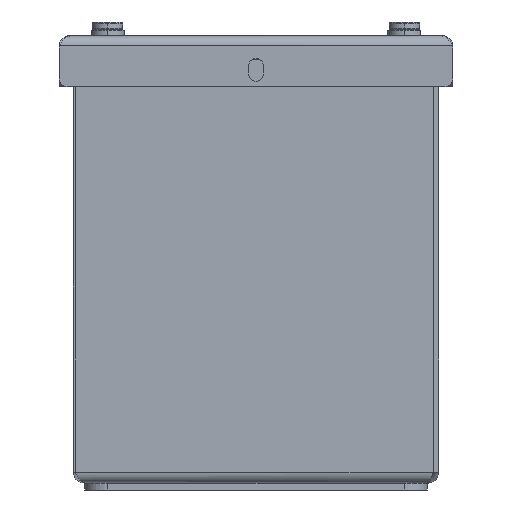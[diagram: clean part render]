
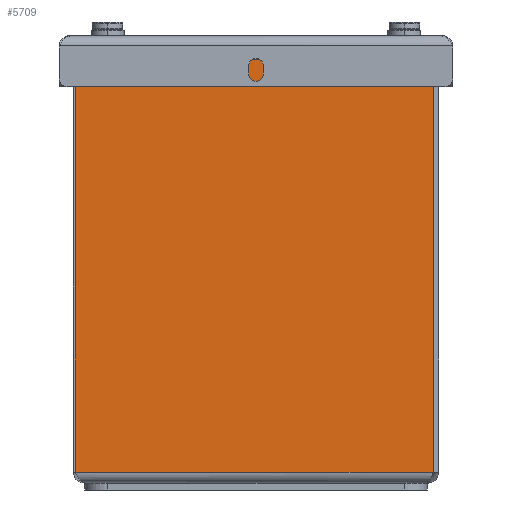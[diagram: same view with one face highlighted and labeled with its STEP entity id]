
A CAD part, left-side view. The second image highlights one B-rep face of the part: STEP entity #5709.
In plain terms, the highlighted planar face has unit normal (-1, 0, 0).
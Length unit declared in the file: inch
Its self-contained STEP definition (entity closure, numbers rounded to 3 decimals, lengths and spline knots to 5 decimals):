
#267=DIRECTION('',(0.,-1.,0.));
#268=VECTOR('',#267,3.918);
#269=CARTESIAN_POINT('',(0.,3.978,0.12));
#270=LINE('',#269,#268);
#1697=DIRECTION('',(0.,-1.,0.));
#1698=VECTOR('',#1697,3.22175);
#1699=CARTESIAN_POINT('',(0.,3.978,4.638));
#1700=LINE('',#1699,#1698);
#1785=DIRECTION('',(0.,0.,1.));
#1786=VECTOR('',#1785,4.518);
#1787=CARTESIAN_POINT('',(0.,3.978,0.12));
#1788=LINE('',#1787,#1786);
#1792=DIRECTION('',(0.,0.,1.));
#1793=VECTOR('',#1792,0.042);
#1794=CARTESIAN_POINT('',(0.,0.75625,4.638));
#1795=LINE('',#1794,#1793);
#1799=DIRECTION('',(0.,1.,0.));
#1800=VECTOR('',#1799,0.65125);
#1801=CARTESIAN_POINT('',(0.,0.105,4.68));
#1802=LINE('',#1801,#1800);
#1806=CARTESIAN_POINT('',(0.,0.105,4.635));
#1807=DIRECTION('',(-1.,0.,0.));
#1808=DIRECTION('',(0.,-1.,0.));
#1809=AXIS2_PLACEMENT_3D('',#1806,#1807,#1808);
#1856=DIRECTION('',(0.,0.,1.));
#1857=VECTOR('',#1856,4.515);
#1858=CARTESIAN_POINT('',(0.,0.06,0.12));
#1859=LINE('',#1858,#1857);
#3521=CARTESIAN_POINT('',(0.,0.75625,4.638));
#3522=CARTESIAN_POINT('',(0.,0.75625,4.68));
#3523=VERTEX_POINT('',#3521);
#3524=VERTEX_POINT('',#3522);
#3649=CARTESIAN_POINT('',(0.,3.978,0.12));
#3650=CARTESIAN_POINT('',(0.,3.978,4.638));
#3651=VERTEX_POINT('',#3649);
#3652=VERTEX_POINT('',#3650);
#3713=CARTESIAN_POINT('',(0.,0.06,4.635));
#3714=CARTESIAN_POINT('',(0.,0.105,4.68));
#3715=VERTEX_POINT('',#3713);
#3716=VERTEX_POINT('',#3714);
#3721=CARTESIAN_POINT('',(0.,0.06,0.12));
#3722=VERTEX_POINT('',#3721);
#5691=CARTESIAN_POINT('',(0.,4.,0.));
#5692=DIRECTION('',(-1.,0.,0.));
#5693=DIRECTION('',(0.,-1.,0.));
#5694=AXIS2_PLACEMENT_3D('',#5691,#5692,#5693);
#5695=PLANE('',#5694);
#5696=ORIENTED_EDGE('',*,*,#5260,.T.);
#5697=ORIENTED_EDGE('',*,*,#5681,.T.);
#5699=ORIENTED_EDGE('',*,*,#5698,.T.);
#5701=ORIENTED_EDGE('',*,*,#5700,.F.);
#5703=ORIENTED_EDGE('',*,*,#5702,.F.);
#5705=ORIENTED_EDGE('',*,*,#5704,.F.);
#5706=ORIENTED_EDGE('',*,*,#4119,.F.);
#5707=EDGE_LOOP('',(#5696,#5697,#5699,#5701,#5703,#5705,#5706));
#5708=FACE_OUTER_BOUND('',#5707,.F.);
#1810=CIRCLE('',#1809,0.045);
#4119=EDGE_CURVE('',#3651,#3722,#270,.T.);
#5260=EDGE_CURVE('',#3651,#3652,#1788,.T.);
#5681=EDGE_CURVE('',#3652,#3523,#1700,.T.);
#5698=EDGE_CURVE('',#3523,#3524,#1795,.T.);
#5700=EDGE_CURVE('',#3716,#3524,#1802,.T.);
#5702=EDGE_CURVE('',#3715,#3716,#1810,.T.);
#5704=EDGE_CURVE('',#3722,#3715,#1859,.T.);
#5709=ADVANCED_FACE('',(#5708),#5695,.T.);
